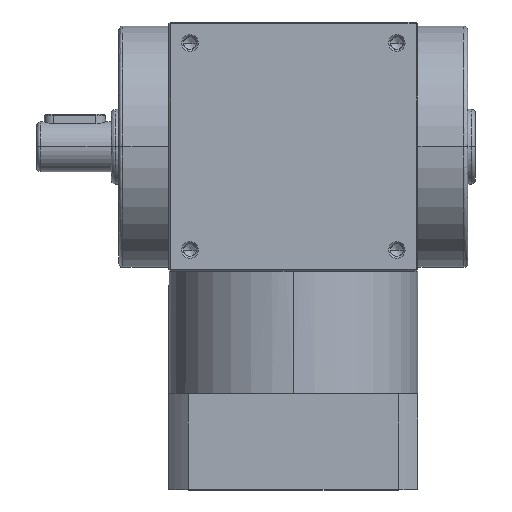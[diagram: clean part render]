
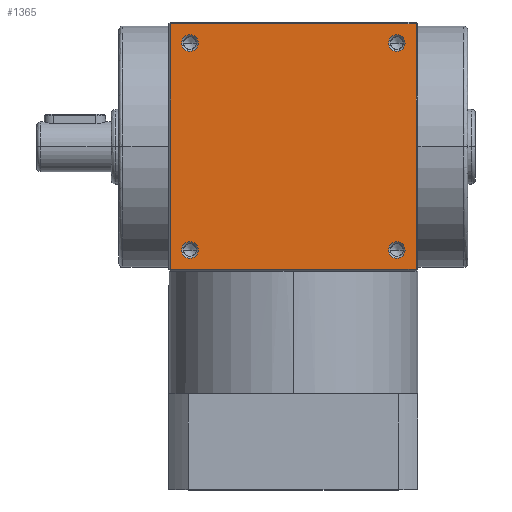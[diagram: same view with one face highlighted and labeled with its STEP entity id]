
A CAD part, top view. The second image highlights one B-rep face of the part: STEP entity #1365.
In plain terms, the highlighted planar face has unit normal (0, 0, 1).
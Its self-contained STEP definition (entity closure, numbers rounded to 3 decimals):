
#8 = CARTESIAN_POINT ( 'NONE',  ( 27., 27., 32.5 ) ) ;
#32 = VECTOR ( 'NONE', #6508, 1000. ) ;
#238 = CARTESIAN_POINT ( 'NONE',  ( -32., -32., 32.5 ) ) ;
#394 = DIRECTION ( 'NONE',  ( 0., -1., 0. ) ) ;
#572 = CARTESIAN_POINT ( 'NONE',  ( 32., 0., 32.5 ) ) ;
#883 = ORIENTED_EDGE ( 'NONE', *, *, #8576, .F. ) ;
#893 = CIRCLE ( 'NONE', #8037, 2.15 ) ;
#990 = DIRECTION ( 'NONE',  ( 1., 0., 0. ) ) ;
#1025 = VERTEX_POINT ( 'NONE', #1302 ) ;
#1056 = ORIENTED_EDGE ( 'NONE', *, *, #7373, .F. ) ;
#1065 = VERTEX_POINT ( 'NONE', #1098 ) ;
#1098 = CARTESIAN_POINT ( 'NONE',  ( 29.15, 27., 32.5 ) ) ;
#1302 = CARTESIAN_POINT ( 'NONE',  ( 32., 32., 32.5 ) ) ;
#1324 = CIRCLE ( 'NONE', #2876, 2.15 ) ;
#1365 = ADVANCED_FACE ( 'NONE', ( #9303, #11279, #6581, #11012, #8765 ), #3214, .F. ) ;
#1501 = CARTESIAN_POINT ( 'NONE',  ( 0., 32., 32.5 ) ) ;
#1541 = ORIENTED_EDGE ( 'NONE', *, *, #9876, .F. ) ;
#1849 = VERTEX_POINT ( 'NONE', #8700 ) ;
#1875 = DIRECTION ( 'NONE',  ( -1., 0., 0. ) ) ;
#2010 = CIRCLE ( 'NONE', #4692, 2.15 ) ;
#2067 = EDGE_CURVE ( 'NONE', #11720, #8184, #5153, .T. ) ;
#2081 = DIRECTION ( 'NONE',  ( -1., 0., 0. ) ) ;
#2223 = CARTESIAN_POINT ( 'NONE',  ( 0., -32., 32.5 ) ) ;
#2237 = ORIENTED_EDGE ( 'NONE', *, *, #7126, .F. ) ;
#2368 = DIRECTION ( 'NONE',  ( 1., 0., 0. ) ) ;
#2393 = DIRECTION ( 'NONE',  ( 0., 0., 1. ) ) ;
#2431 = CARTESIAN_POINT ( 'NONE',  ( 27., 27., 32.5 ) ) ;
#2473 = VERTEX_POINT ( 'NONE', #3462 ) ;
#2529 = EDGE_CURVE ( 'NONE', #1065, #2473, #10638, .T. ) ;
#2876 = AXIS2_PLACEMENT_3D ( 'NONE', #5956, #5952, #5938 ) ;
#2915 = DIRECTION ( 'NONE',  ( 0., 0., 1. ) ) ;
#3214 = PLANE ( 'NONE',  #7138 ) ;
#3385 = AXIS2_PLACEMENT_3D ( 'NONE', #8, #6775, #990 ) ;
#3462 = CARTESIAN_POINT ( 'NONE',  ( 24.85, 27., 32.5 ) ) ;
#3656 = CARTESIAN_POINT ( 'NONE',  ( 29.15, -27., 32.5 ) ) ;
#3774 = ORIENTED_EDGE ( 'NONE', *, *, #4671, .T. ) ;
#3823 = VERTEX_POINT ( 'NONE', #6010 ) ;
#3915 = CARTESIAN_POINT ( 'NONE',  ( -24.85, -27., 32.5 ) ) ;
#4051 = CARTESIAN_POINT ( 'NONE',  ( -29.15, -27., 32.5 ) ) ;
#4151 = EDGE_LOOP ( 'NONE', ( #8651, #8193, #3774, #11055 ) ) ;
#4388 = EDGE_LOOP ( 'NONE', ( #9234, #6476 ) ) ;
#4399 = EDGE_LOOP ( 'NONE', ( #11051, #1541 ) ) ;
#4484 = CIRCLE ( 'NONE', #9986, 2.15 ) ;
#4607 = EDGE_LOOP ( 'NONE', ( #2237, #1056 ) ) ;
#4648 = EDGE_LOOP ( 'NONE', ( #5623, #883 ) ) ;
#4671 = EDGE_CURVE ( 'NONE', #1025, #8184, #9365, .T. ) ;
#4692 = AXIS2_PLACEMENT_3D ( 'NONE', #8644, #2915, #9508 ) ;
#4923 = EDGE_CURVE ( 'NONE', #3823, #11720, #9420, .T. ) ;
#5153 = LINE ( 'NONE', #6526, #32 ) ;
#5434 = DIRECTION ( 'NONE',  ( -1., 0., 0. ) ) ;
#5623 = ORIENTED_EDGE ( 'NONE', *, *, #9881, .F. ) ;
#5712 = VERTEX_POINT ( 'NONE', #7586 ) ;
#5938 = DIRECTION ( 'NONE',  ( 1., 0., 0. ) ) ;
#5952 = DIRECTION ( 'NONE',  ( 0., 0., 1. ) ) ;
#5956 = CARTESIAN_POINT ( 'NONE',  ( -27., 27., 32.5 ) ) ;
#5993 = CARTESIAN_POINT ( 'NONE',  ( -29.15, 27., 32.5 ) ) ;
#6010 = CARTESIAN_POINT ( 'NONE',  ( 32., -32., 32.5 ) ) ;
#6037 = EDGE_CURVE ( 'NONE', #5712, #6058, #1324, .T. ) ;
#6058 = VERTEX_POINT ( 'NONE', #5993 ) ;
#6146 = DIRECTION ( 'NONE',  ( 1., 0., 0. ) ) ;
#6161 = DIRECTION ( 'NONE',  ( 0., 0., 1. ) ) ;
#6172 = CARTESIAN_POINT ( 'NONE',  ( 27., -27., 32.5 ) ) ;
#6276 = CIRCLE ( 'NONE', #11879, 2.15 ) ;
#6433 = VECTOR ( 'NONE', #1875, 1000. ) ;
#6444 = VERTEX_POINT ( 'NONE', #4051 ) ;
#6476 = ORIENTED_EDGE ( 'NONE', *, *, #8457, .F. ) ;
#6508 = DIRECTION ( 'NONE',  ( 0., 1., 0. ) ) ;
#6526 = CARTESIAN_POINT ( 'NONE',  ( -32., 0., 32.5 ) ) ;
#6581 = FACE_BOUND ( 'NONE', #4399, .T. ) ;
#6636 = VECTOR ( 'NONE', #394, 1000. ) ;
#6775 = DIRECTION ( 'NONE',  ( 0., 0., 1. ) ) ;
#7071 = EDGE_CURVE ( 'NONE', #1025, #3823, #9070, .T. ) ;
#7126 = EDGE_CURVE ( 'NONE', #11598, #6444, #10529, .T. ) ;
#7138 = AXIS2_PLACEMENT_3D ( 'NONE', #11759, #10659, #2081 ) ;
#7194 = AXIS2_PLACEMENT_3D ( 'NONE', #11706, #11695, #11656 ) ;
#7373 = EDGE_CURVE ( 'NONE', #6444, #11598, #4484, .T. ) ;
#7480 = CIRCLE ( 'NONE', #3385, 2.15 ) ;
#7586 = CARTESIAN_POINT ( 'NONE',  ( -24.85, 27., 32.5 ) ) ;
#8037 = AXIS2_PLACEMENT_3D ( 'NONE', #8659, #8579, #8543 ) ;
#8184 = VERTEX_POINT ( 'NONE', #9482 ) ;
#8193 = ORIENTED_EDGE ( 'NONE', *, *, #7071, .F. ) ;
#8457 = EDGE_CURVE ( 'NONE', #6058, #5712, #893, .T. ) ;
#8543 = DIRECTION ( 'NONE',  ( 1., 0., 0. ) ) ;
#8576 = EDGE_CURVE ( 'NONE', #1849, #10227, #6276, .T. ) ;
#8579 = DIRECTION ( 'NONE',  ( 0., 0., 1. ) ) ;
#8644 = CARTESIAN_POINT ( 'NONE',  ( 27., -27., 32.5 ) ) ;
#8651 = ORIENTED_EDGE ( 'NONE', *, *, #4923, .F. ) ;
#8659 = CARTESIAN_POINT ( 'NONE',  ( -27., 27., 32.5 ) ) ;
#8700 = CARTESIAN_POINT ( 'NONE',  ( 24.85, -27., 32.5 ) ) ;
#8765 = FACE_BOUND ( 'NONE', #4648, .T. ) ;
#9070 = LINE ( 'NONE', #572, #6636 ) ;
#9234 = ORIENTED_EDGE ( 'NONE', *, *, #6037, .F. ) ;
#9303 = FACE_OUTER_BOUND ( 'NONE', #4151, .T. ) ;
#9365 = LINE ( 'NONE', #1501, #6433 ) ;
#9420 = LINE ( 'NONE', #2223, #10611 ) ;
#9482 = CARTESIAN_POINT ( 'NONE',  ( -32., 32., 32.5 ) ) ;
#9508 = DIRECTION ( 'NONE',  ( 1., 0., 0. ) ) ;
#9873 = DIRECTION ( 'NONE',  ( 1., 0., 0. ) ) ;
#9876 = EDGE_CURVE ( 'NONE', #2473, #1065, #7480, .T. ) ;
#9881 = EDGE_CURVE ( 'NONE', #10227, #1849, #2010, .T. ) ;
#9886 = DIRECTION ( 'NONE',  ( 0., 0., 1. ) ) ;
#9910 = CARTESIAN_POINT ( 'NONE',  ( -27., -27., 32.5 ) ) ;
#9986 = AXIS2_PLACEMENT_3D ( 'NONE', #9910, #9886, #9873 ) ;
#10227 = VERTEX_POINT ( 'NONE', #3656 ) ;
#10529 = CIRCLE ( 'NONE', #7194, 2.15 ) ;
#10611 = VECTOR ( 'NONE', #5434, 1000. ) ;
#10638 = CIRCLE ( 'NONE', #11203, 2.15 ) ;
#10659 = DIRECTION ( 'NONE',  ( 0., 0., -1. ) ) ;
#11012 = FACE_BOUND ( 'NONE', #4607, .T. ) ;
#11051 = ORIENTED_EDGE ( 'NONE', *, *, #2529, .F. ) ;
#11055 = ORIENTED_EDGE ( 'NONE', *, *, #2067, .F. ) ;
#11203 = AXIS2_PLACEMENT_3D ( 'NONE', #2431, #2393, #2368 ) ;
#11279 = FACE_BOUND ( 'NONE', #4388, .T. ) ;
#11598 = VERTEX_POINT ( 'NONE', #3915 ) ;
#11656 = DIRECTION ( 'NONE',  ( 1., 0., 0. ) ) ;
#11695 = DIRECTION ( 'NONE',  ( 0., 0., 1. ) ) ;
#11706 = CARTESIAN_POINT ( 'NONE',  ( -27., -27., 32.5 ) ) ;
#11720 = VERTEX_POINT ( 'NONE', #238 ) ;
#11759 = CARTESIAN_POINT ( 'NONE',  ( 0., 0., 32.5 ) ) ;
#11879 = AXIS2_PLACEMENT_3D ( 'NONE', #6172, #6161, #6146 ) ;
